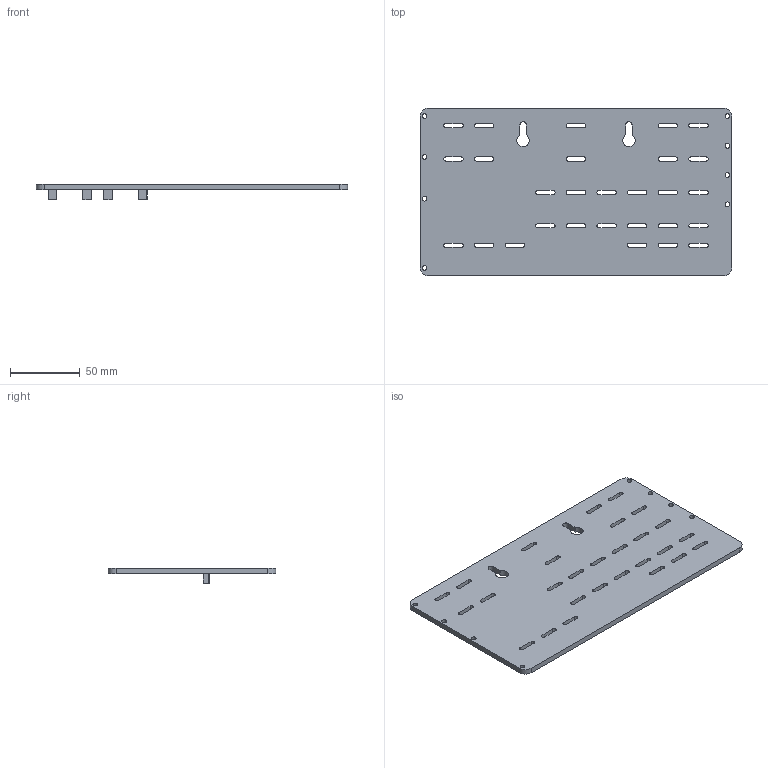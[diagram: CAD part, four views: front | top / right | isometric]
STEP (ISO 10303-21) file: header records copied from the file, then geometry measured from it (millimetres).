
FILE_DESCRIPTION(('Open CASCADE Model'),'2;1');
FILE_NAME('Open CASCADE Shape Model','2026-11-10T17:02:06',('Author'),( 'Open CASCADE'),'Open CASCADE STEP processor 7.9','Open CASCADE 7.9' ,'Unknown');
FILE_SCHEMA(('AUTOMOTIVE_DESIGN { 1 0 10303 214 1 1 1 1 }'));
Length unit declared in the file: millimetre
Products named in the file (2): T10_Main_board_rear_lid; 01_Main_board_rear_lid
Assembly tree (1 placements, depth 2):
  T10_Main_board_rear_lid
    01_Main_board_rear_lid
Bounding box: 223.6 x 120.6 x 11.48 mm (x, y, z)
Volume: 102807.5 mm3; surface area: 58589.6 mm2
Topology: 1 solids, 1 shells, 278 faces, 816 edges, 544 vertices
Faces by surface type: plane 150, cylinder 128
Full cylindrical faces by diameter (mm): 3.4 x8
Entity records: 20171 total; most frequent: CARTESIAN_POINT 3428, DIRECTION 3238, LINE 1936, VECTOR 1936, ORIENTED_EDGE 1632, PCURVE 1632, DEFINITIONAL_REPRESENTATION 1632, EDGE_CURVE 816
